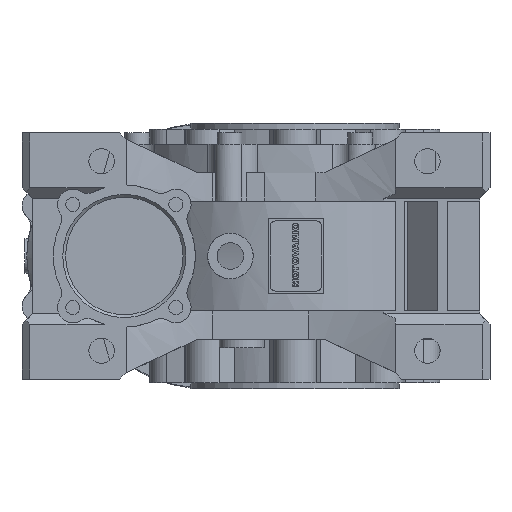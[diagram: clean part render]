
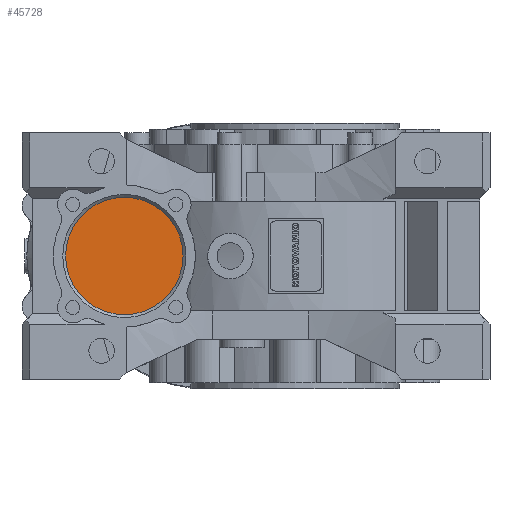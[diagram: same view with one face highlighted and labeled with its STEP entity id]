
A CAD part, left-side view. The second image highlights one B-rep face of the part: STEP entity #45728.
In plain terms, the highlighted planar face has unit normal (-1, 0, 0) as drawn and (1, 0, 0) by its records, which use the part's own axes.
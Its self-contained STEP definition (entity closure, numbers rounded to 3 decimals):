
#10246=ORIENTED_EDGE('',*,*,#18772,.T.);
#18772=EDGE_CURVE('',#23223,#23223,#25735,.T.);
#23223=VERTEX_POINT('',#65265);
#25735=CIRCLE('',#48262,31.);
#27427=EDGE_LOOP('',(#10246));
#29650=FACE_BOUND('',#27427,.T.);
#31621=PLANE('',#48261);
#45728=ADVANCED_FACE('',(#29650),#31621,.T.);
#48261=AXIS2_PLACEMENT_3D('',#65263,#54016,#54017);
#48262=AXIS2_PLACEMENT_3D('',#65264,#54018,#54019);
#54016=DIRECTION('',(1.,0.,0.));
#54017=DIRECTION('',(0.,0.,-1.));
#54018=DIRECTION('',(1.,0.,0.));
#54019=DIRECTION('',(0.,0.,-1.));
#65263=CARTESIAN_POINT('',(101.5,90.,0.));
#65264=CARTESIAN_POINT('',(101.5,90.,0.));
#65265=CARTESIAN_POINT('',(101.5,90.,-31.));
